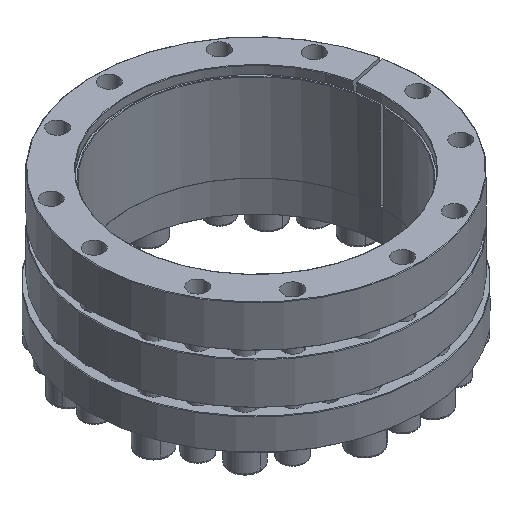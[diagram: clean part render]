
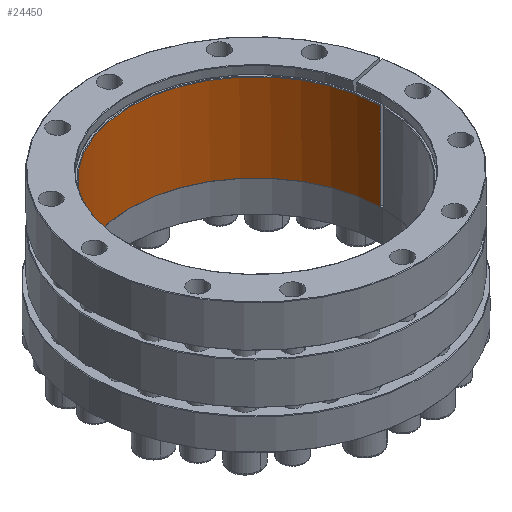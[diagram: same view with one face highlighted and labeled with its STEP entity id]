
A CAD part, isometric view. The second image highlights one B-rep face of the part: STEP entity #24450.
In plain terms, the highlighted cylindrical face has radius 120 mm (diameter 240 mm), a partial arc.
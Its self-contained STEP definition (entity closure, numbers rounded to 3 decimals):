
#307 = LINE ( 'NONE', #14813, #29518 ) ;
#1248 = ORIENTED_EDGE ( 'NONE', *, *, #11074, .T. ) ;
#2627 = VERTEX_POINT ( 'NONE', #18168 ) ;
#2675 = CIRCLE ( 'NONE', #16452, 120. ) ;
#2757 = CARTESIAN_POINT ( 'NONE',  ( 0., 0., 30.5 ) ) ;
#3390 = DIRECTION ( 'NONE',  ( 0., 0., -1. ) ) ;
#4430 = VERTEX_POINT ( 'NONE', #13473 ) ;
#5448 = LINE ( 'NONE', #25183, #27143 ) ;
#5591 = DIRECTION ( 'NONE',  ( 1., 0., 0. ) ) ;
#5671 = DIRECTION ( 'NONE',  ( -1., 0., 0. ) ) ;
#5862 = VERTEX_POINT ( 'NONE', #35494 ) ;
#6156 = VERTEX_POINT ( 'NONE', #6383 ) ;
#6383 = CARTESIAN_POINT ( 'NONE',  ( -119.987, 1.75, 113.5 ) ) ;
#6606 = CARTESIAN_POINT ( 'NONE',  ( 0., 0., 30. ) ) ;
#8080 = ORIENTED_EDGE ( 'NONE', *, *, #24999, .T. ) ;
#8353 = DIRECTION ( 'NONE',  ( 0., 0., -1. ) ) ;
#9306 = EDGE_LOOP ( 'NONE', ( #29521, #11834, #8080, #1248, #31537, #21449, #12908, #10081 ) ) ;
#9461 = DIRECTION ( 'NONE',  ( -1., 0., 0. ) ) ;
#10081 = ORIENTED_EDGE ( 'NONE', *, *, #28813, .F. ) ;
#10242 = LINE ( 'NONE', #31245, #31972 ) ;
#10762 = CYLINDRICAL_SURFACE ( 'NONE', #12363, 120. ) ;
#11074 = EDGE_CURVE ( 'NONE', #16360, #6156, #34637, .T. ) ;
#11082 = CIRCLE ( 'NONE', #15125, 120. ) ;
#11201 = DIRECTION ( 'NONE',  ( 0., 0., -1. ) ) ;
#11834 = ORIENTED_EDGE ( 'NONE', *, *, #22815, .F. ) ;
#12216 = DIRECTION ( 'NONE',  ( 0., 0., -1. ) ) ;
#12289 = DIRECTION ( 'NONE',  ( 0., 0., 1. ) ) ;
#12363 = AXIS2_PLACEMENT_3D ( 'NONE', #28165, #11201, #5671 ) ;
#12908 = ORIENTED_EDGE ( 'NONE', *, *, #30981, .T. ) ;
#13473 = CARTESIAN_POINT ( 'NONE',  ( 120., 0., 30.5 ) ) ;
#14321 = FACE_OUTER_BOUND ( 'NONE', #9306, .T. ) ;
#14813 = CARTESIAN_POINT ( 'NONE',  ( 120., 0., 114. ) ) ;
#15052 = CARTESIAN_POINT ( 'NONE',  ( 0., 0., 30.5 ) ) ;
#15125 = AXIS2_PLACEMENT_3D ( 'NONE', #15052, #34876, #17905 ) ;
#15751 = AXIS2_PLACEMENT_3D ( 'NONE', #29234, #12289, #32127 ) ;
#16360 = VERTEX_POINT ( 'NONE', #35523 ) ;
#16452 = AXIS2_PLACEMENT_3D ( 'NONE', #6606, #26379, #9461 ) ;
#17586 = CARTESIAN_POINT ( 'NONE',  ( 120., 0., 30. ) ) ;
#17905 = DIRECTION ( 'NONE',  ( 1., 0., 0. ) ) ;
#18168 = CARTESIAN_POINT ( 'NONE',  ( 119.987, 1.75, 30.5 ) ) ;
#21449 = ORIENTED_EDGE ( 'NONE', *, *, #30422, .F. ) ;
#22227 = LINE ( 'NONE', #28852, #29763 ) ;
#22489 = DIRECTION ( 'NONE',  ( 0., 0., -1. ) ) ;
#22815 = EDGE_CURVE ( 'NONE', #2627, #4430, #11082, .T. ) ;
#24450 = ADVANCED_FACE ( 'NONE', ( #14321 ), #10762, .F. ) ;
#24999 = EDGE_CURVE ( 'NONE', #2627, #16360, #10242, .T. ) ;
#25183 = CARTESIAN_POINT ( 'NONE',  ( -120., 0., 114. ) ) ;
#26283 = AXIS2_PLACEMENT_3D ( 'NONE', #2757, #22489, #5591 ) ;
#26369 = EDGE_CURVE ( 'NONE', #6156, #31068, #22227, .T. ) ;
#26379 = DIRECTION ( 'NONE',  ( 0., 0., 1. ) ) ;
#27143 = VECTOR ( 'NONE', #8353, 1000. ) ;
#28117 = CIRCLE ( 'NONE', #26283, 120. ) ;
#28165 = CARTESIAN_POINT ( 'NONE',  ( 0., 0., 114. ) ) ;
#28536 = CARTESIAN_POINT ( 'NONE',  ( -119.987, 1.75, 30.5 ) ) ;
#28813 = EDGE_CURVE ( 'NONE', #29224, #5862, #2675, .T. ) ;
#28852 = CARTESIAN_POINT ( 'NONE',  ( -119.987, 1.75, 114. ) ) ;
#29065 = VERTEX_POINT ( 'NONE', #30962 ) ;
#29224 = VERTEX_POINT ( 'NONE', #17586 ) ;
#29234 = CARTESIAN_POINT ( 'NONE',  ( 0., 0., 113.5 ) ) ;
#29518 = VECTOR ( 'NONE', #12216, 1000. ) ;
#29521 = ORIENTED_EDGE ( 'NONE', *, *, #33886, .F. ) ;
#29763 = VECTOR ( 'NONE', #3390, 1000. ) ;
#30422 = EDGE_CURVE ( 'NONE', #29065, #31068, #28117, .T. ) ;
#30962 = CARTESIAN_POINT ( 'NONE',  ( -120., 0., 30.5 ) ) ;
#30981 = EDGE_CURVE ( 'NONE', #29065, #5862, #5448, .T. ) ;
#31068 = VERTEX_POINT ( 'NONE', #28536 ) ;
#31245 = CARTESIAN_POINT ( 'NONE',  ( 119.987, 1.75, 114. ) ) ;
#31537 = ORIENTED_EDGE ( 'NONE', *, *, #26369, .T. ) ;
#31972 = VECTOR ( 'NONE', #34102, 1000. ) ;
#32127 = DIRECTION ( 'NONE',  ( 1., 0., 0. ) ) ;
#33886 = EDGE_CURVE ( 'NONE', #4430, #29224, #307, .T. ) ;
#34102 = DIRECTION ( 'NONE',  ( 0., 0., 1. ) ) ;
#34637 = CIRCLE ( 'NONE', #15751, 120. ) ;
#34876 = DIRECTION ( 'NONE',  ( 0., 0., -1. ) ) ;
#35494 = CARTESIAN_POINT ( 'NONE',  ( -120., 0., 30. ) ) ;
#35523 = CARTESIAN_POINT ( 'NONE',  ( 119.987, 1.75, 113.5 ) ) ;
